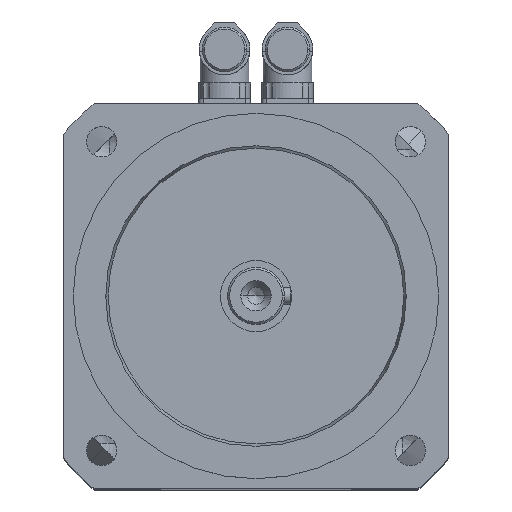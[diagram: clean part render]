
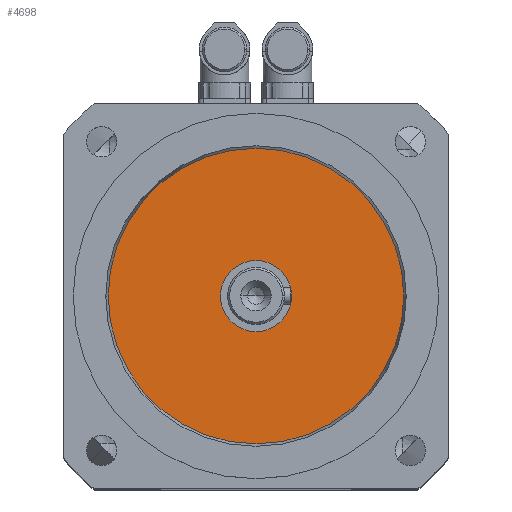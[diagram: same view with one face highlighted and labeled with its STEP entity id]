
A CAD part, top view. The second image highlights one B-rep face of the part: STEP entity #4698.
In plain terms, the highlighted planar face has unit normal (0, 0, 1).
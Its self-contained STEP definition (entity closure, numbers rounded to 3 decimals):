
#3573=CARTESIAN_POINT('',(-72.794,0.,340.5));
#3574=VERTEX_POINT('',#3573);
#3583=CARTESIAN_POINT('',(72.794,0.,340.5));
#3584=VERTEX_POINT('',#3583);
#3585=CARTESIAN_POINT('',(0.,0.0,340.5));
#3586=DIRECTION('',(0.0,0.0,1.0));
#3587=DIRECTION('',(-1.0,0.0,0.0));
#3588=AXIS2_PLACEMENT_3D('',#3585,#3586,#3587);
#3589=CIRCLE('',#3588,72.794);
#3590=EDGE_CURVE('',#3584,#3574,#3589,.T.);
#3835=CARTESIAN_POINT('',(-17.5,0.,340.5));
#3836=VERTEX_POINT('',#3835);
#3845=CARTESIAN_POINT('',(17.5,0.,340.5));
#3846=VERTEX_POINT('',#3845);
#3847=CARTESIAN_POINT('',(0.,0.0,340.5));
#3848=DIRECTION('',(0.0,0.0,-1.0));
#3849=DIRECTION('',(-1.0,0.0,0.0));
#3850=AXIS2_PLACEMENT_3D('',#3847,#3848,#3849);
#3851=CIRCLE('',#3850,17.5);
#3852=EDGE_CURVE('',#3846,#3836,#3851,.T.);
#4481=CARTESIAN_POINT('',(0.,0.0,340.5));
#4482=DIRECTION('',(0.0,0.0,-1.0));
#4483=DIRECTION('',(-1.0,0.0,0.0));
#4484=AXIS2_PLACEMENT_3D('',#4481,#4482,#4483);
#4485=CIRCLE('',#4484,17.5);
#4486=EDGE_CURVE('',#3836,#3846,#4485,.T.);
#4679=CARTESIAN_POINT('',(80.074,-80.074,340.5));
#4680=DIRECTION('',(0.0,0.0,-1.0));
#4681=DIRECTION('',(-1.0,0.0,0.0));
#4682=AXIS2_PLACEMENT_3D('',#4679,#4680,#4681);
#4683=PLANE('',#4682);
#4684=ORIENTED_EDGE('',*,*,#3590,.T.);
#4685=CARTESIAN_POINT('',(0.,0.0,340.5));
#4686=DIRECTION('',(0.0,0.0,1.0));
#4687=DIRECTION('',(-1.0,0.0,0.0));
#4688=AXIS2_PLACEMENT_3D('',#4685,#4686,#4687);
#4689=CIRCLE('',#4688,72.794);
#4690=EDGE_CURVE('',#3574,#3584,#4689,.T.);
#4691=ORIENTED_EDGE('',*,*,#4690,.T.);
#4692=EDGE_LOOP('',(#4684,#4691));
#4693=FACE_OUTER_BOUND('',#4692,.T.);
#4694=ORIENTED_EDGE('',*,*,#3852,.T.);
#4695=ORIENTED_EDGE('',*,*,#4486,.T.);
#4696=EDGE_LOOP('',(#4694,#4695));
#4697=FACE_BOUND('',#4696,.T.);
#4698=ADVANCED_FACE('',(#4693,#4697),#4683,.F.);
